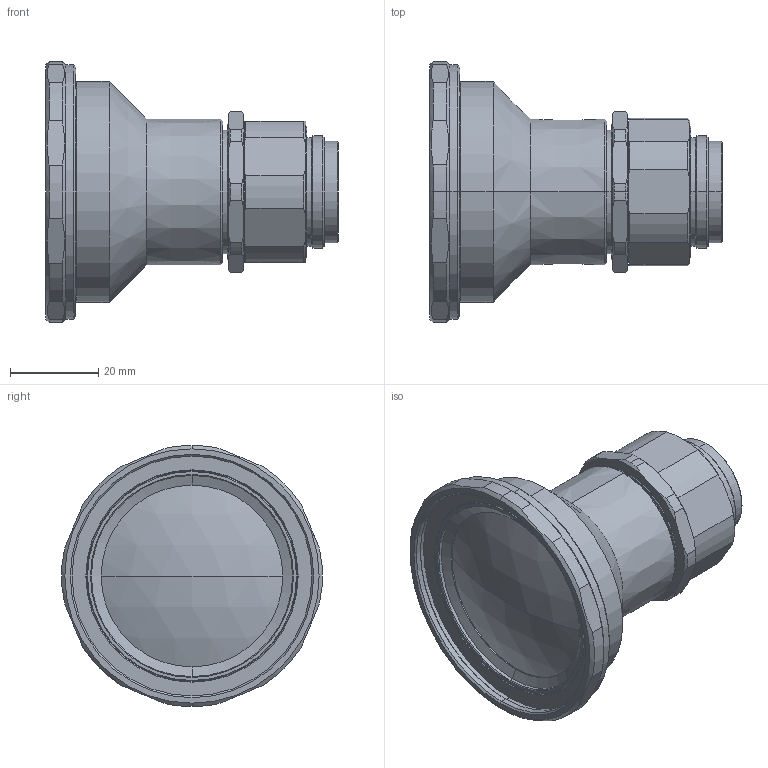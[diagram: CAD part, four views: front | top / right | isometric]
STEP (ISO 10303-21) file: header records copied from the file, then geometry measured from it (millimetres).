
FILE_DESCRIPTION (( 'STEP AP203' ), '1' );
FILE_NAME ('VS-MC08H1.STEP', '2018-12-04T07:33:34', ( '' ), ( '' ), 'SwSTEP 2.0', 'SolidWorks 2018', '' );
FILE_SCHEMA (( 'CONFIG_CONTROL_DESIGN' ));
Length unit declared in the file: millimetre
Products named in the file (1): VS-MC08H1
Bounding box: 66.1 x 58.86 x 59 mm (x, y, z)
Volume: 70624.6 mm3; surface area: 14326.7 mm2
Topology: 1 solids, 1 shells, 164 faces, 401 edges, 253 vertices
Faces by surface type: cone 80, cylinder 44, plane 36, sphere 4
Entity records: 5125 total; most frequent: CARTESIAN_POINT 1167, DIRECTION 842, ORIENTED_EDGE 802, EDGE_CURVE 401, AXIS2_PLACEMENT_3D 348, VERTEX_POINT 253, CIRCLE 183, EDGE_LOOP 178
